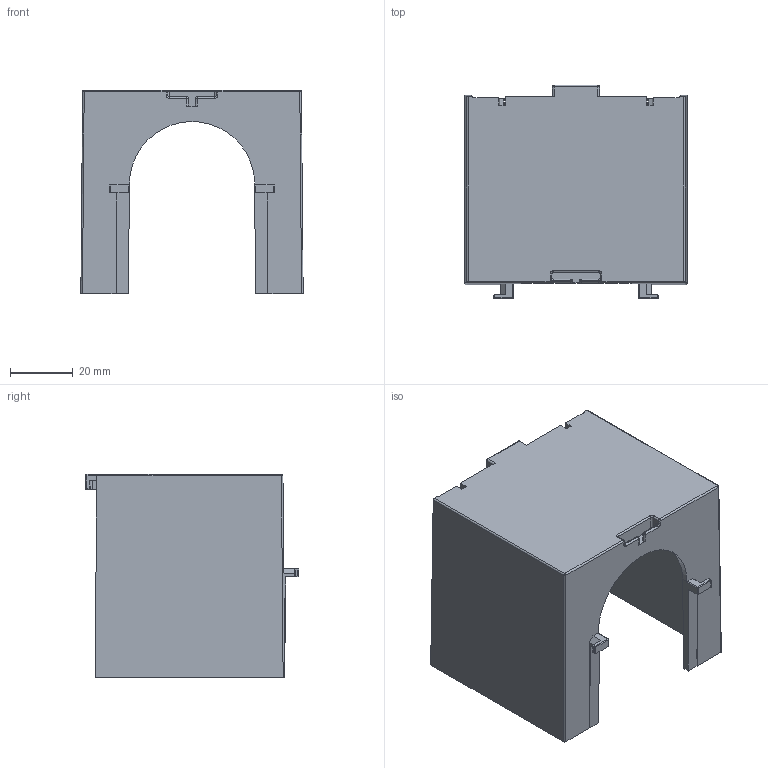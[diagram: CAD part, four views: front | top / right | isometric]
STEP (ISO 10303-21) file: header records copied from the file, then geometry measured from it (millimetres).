
FILE_DESCRIPTION(/* description */ (''),/* implementation_level */ '2;1');
FILE_NAME(/* name */ '1000354',/* time_stamp */ '2014-06-16T14:33:06+02:00',/* author */ (''),/* organization */ (''),/* preprocessor_version */ 'ST-DEVELOPER v9',/* originating_system */ 'UGS - NX 4.0',/* authorisation */ '');
FILE_SCHEMA (('CONFIG_CONTROL_DESIGN'));
Length unit declared in the file: millimetre
Products named in the file (1): MTroCFD28y4e
Bounding box: 71 x 68.22 x 65 mm (x, y, z)
Volume: 31090.9 mm3; surface area: 31852.5 mm2
Topology: 1 solids, 1 shells, 212 faces, 581 edges, 360 vertices
Faces by surface type: plane 117, cylinder 75, sphere 14, bspline 6
Entity records: 6681 total; most frequent: CARTESIAN_POINT 1206, DIRECTION 1135, ORIENTED_EDGE 1134, EDGE_CURVE 567, LINE 413, VECTOR 413, AXIS2_PLACEMENT_3D 361, VERTEX_POINT 360
